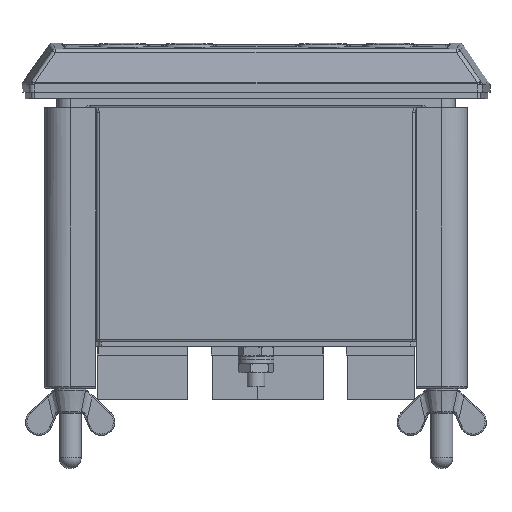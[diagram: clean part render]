
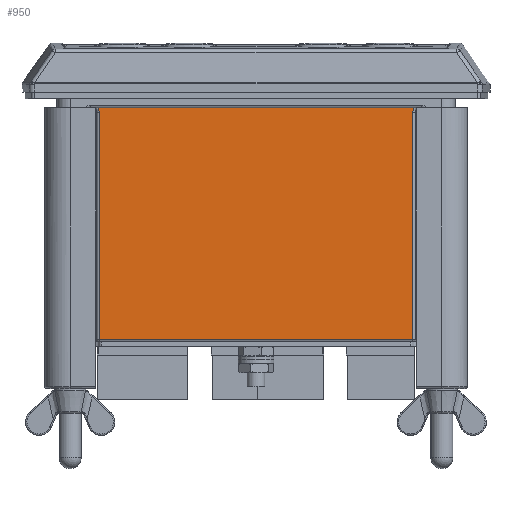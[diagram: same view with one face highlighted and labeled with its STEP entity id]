
A CAD part, front view. The second image highlights one B-rep face of the part: STEP entity #950.
In plain terms, the highlighted planar face has unit normal (0, -1, 0).
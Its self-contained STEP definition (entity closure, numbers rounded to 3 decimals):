
#950 = ADVANCED_FACE ( 'NONE', ( #93551 ), #68795, .F. ) ;
#1661 = ORIENTED_EDGE ( 'NONE', *, *, #119717, .F. ) ;
#2327 = ORIENTED_EDGE ( 'NONE', *, *, #18466, .T. ) ;
#5628 = AXIS2_PLACEMENT_3D ( 'NONE', #7503, #79463, #17849 ) ;
#6163 = ORIENTED_EDGE ( 'NONE', *, *, #86582, .T. ) ;
#6481 = ORIENTED_EDGE ( 'NONE', *, *, #92558, .T. ) ;
#7503 = CARTESIAN_POINT ( 'NONE',  ( 36.7, -21., -4.5 ) ) ;
#8665 = LINE ( 'NONE', #48629, #63244 ) ;
#8883 = CARTESIAN_POINT ( 'NONE',  ( -36.7, -21., -4.5 ) ) ;
#9586 = VERTEX_POINT ( 'NONE', #68939 ) ;
#17849 = DIRECTION ( 'NONE',  ( -1., 0., 0. ) ) ;
#18466 = EDGE_CURVE ( 'NONE', #126295, #131203, #97325, .T. ) ;
#19244 = DIRECTION ( 'NONE',  ( -1., 0., 0. ) ) ;
#20483 = AXIS2_PLACEMENT_3D ( 'NONE', #48503, #120540, #58848 ) ;
#20721 = LINE ( 'NONE', #84461, #99604 ) ;
#26210 = CIRCLE ( 'NONE', #86547, 1.5 ) ;
#33592 = DIRECTION ( 'NONE',  ( 0., 0., 1. ) ) ;
#41942 = DIRECTION ( 'NONE',  ( 1., 0., 0. ) ) ;
#43861 = CARTESIAN_POINT ( 'NONE',  ( 35.2, -21., -3.5 ) ) ;
#44370 = ORIENTED_EDGE ( 'NONE', *, *, #59337, .T. ) ;
#45295 = CARTESIAN_POINT ( 'NONE',  ( 35.582, -21., -3.5 ) ) ;
#48503 = CARTESIAN_POINT ( 'NONE',  ( 36.5, -21., -3.5 ) ) ;
#48629 = CARTESIAN_POINT ( 'NONE',  ( -35.2, -21., -3.5 ) ) ;
#53214 = ORIENTED_EDGE ( 'NONE', *, *, #105036, .T. ) ;
#58848 = DIRECTION ( 'NONE',  ( -1., 0., 0. ) ) ;
#59337 = EDGE_CURVE ( 'NONE', #64618, #126295, #65247, .T. ) ;
#63244 = VECTOR ( 'NONE', #89672, 1000. ) ;
#64618 = VERTEX_POINT ( 'NONE', #122405 ) ;
#65247 = LINE ( 'NONE', #43861, #116754 ) ;
#68795 = PLANE ( 'NONE',  #20483 ) ;
#68939 = CARTESIAN_POINT ( 'NONE',  ( -35.582, -21., -3.5 ) ) ;
#79463 = DIRECTION ( 'NONE',  ( 0., 1., 0. ) ) ;
#80847 = DIRECTION ( 'NONE',  ( 0., 1., 0. ) ) ;
#82948 = CARTESIAN_POINT ( 'NONE',  ( 36.5, -21., -3.5 ) ) ;
#84461 = CARTESIAN_POINT ( 'NONE',  ( 36.5, -21., -55.5 ) ) ;
#85756 = CARTESIAN_POINT ( 'NONE',  ( -35.2, -21., -4.5 ) ) ;
#86547 = AXIS2_PLACEMENT_3D ( 'NONE', #8883, #80847, #19244 ) ;
#86582 = EDGE_CURVE ( 'NONE', #103397, #64618, #20721, .T. ) ;
#86689 = VERTEX_POINT ( 'NONE', #85756 ) ;
#88880 = CARTESIAN_POINT ( 'NONE',  ( 35.2, -21., -4.5 ) ) ;
#89672 = DIRECTION ( 'NONE',  ( 0., 0., -1. ) ) ;
#92558 = EDGE_CURVE ( 'NONE', #9586, #86689, #26210, .T. ) ;
#93551 = FACE_OUTER_BOUND ( 'NONE', #97648, .T. ) ;
#97325 = CIRCLE ( 'NONE', #5628, 1.5 ) ;
#97648 = EDGE_LOOP ( 'NONE', ( #53214, #6163, #44370, #2327, #1661, #6481 ) ) ;
#99395 = CARTESIAN_POINT ( 'NONE',  ( -35.2, -21., -55.5 ) ) ;
#99604 = VECTOR ( 'NONE', #114994, 1000. ) ;
#100753 = VECTOR ( 'NONE', #41942, 1000. ) ;
#103397 = VERTEX_POINT ( 'NONE', #99395 ) ;
#105036 = EDGE_CURVE ( 'NONE', #86689, #103397, #8665, .T. ) ;
#114994 = DIRECTION ( 'NONE',  ( 1., 0., 0. ) ) ;
#116754 = VECTOR ( 'NONE', #33592, 1000. ) ;
#119717 = EDGE_CURVE ( 'NONE', #9586, #131203, #128008, .T. ) ;
#120540 = DIRECTION ( 'NONE',  ( 0., 1., 0. ) ) ;
#122405 = CARTESIAN_POINT ( 'NONE',  ( 35.2, -21., -55.5 ) ) ;
#126295 = VERTEX_POINT ( 'NONE', #88880 ) ;
#128008 = LINE ( 'NONE', #82948, #100753 ) ;
#131203 = VERTEX_POINT ( 'NONE', #45295 ) ;
